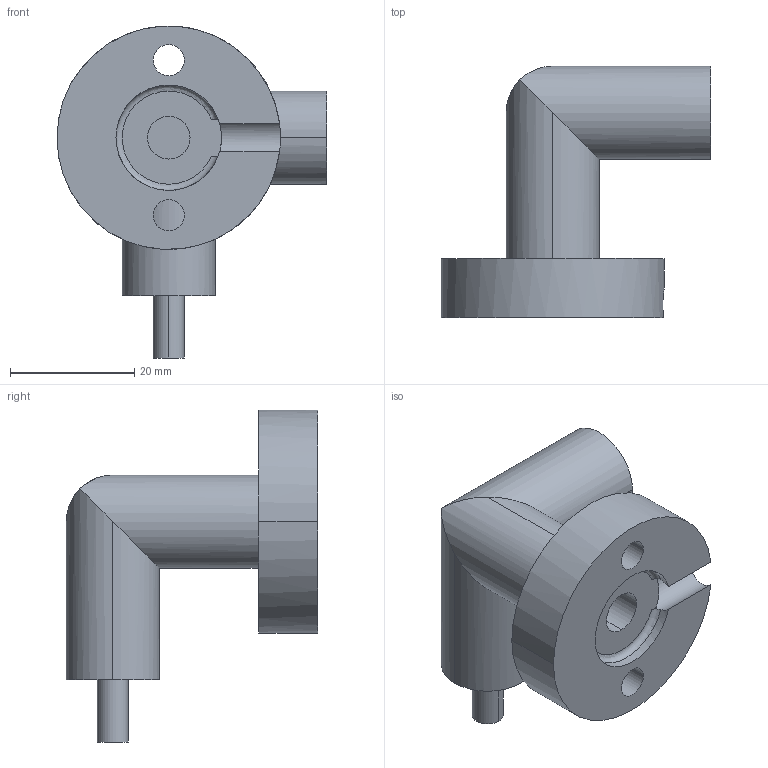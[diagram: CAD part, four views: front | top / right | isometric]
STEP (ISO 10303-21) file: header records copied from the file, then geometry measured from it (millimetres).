
FILE_DESCRIPTION((''),'2;1');
FILE_NAME('ASM0001_ASM','2022-11-09T21:31:43',('Administrator'),(''),'CREO PARAMETRIC BY PTC INC, 2020053','CREO PARAMETRIC BY PTC INC, 2020053','');
FILE_SCHEMA(('CONFIG_CONTROL_DESIGN','SHAPE_APPEARANCE_LAYERS_GROUPS'));
Length unit declared in the file: millimetre
Products named in the file (3): BASE; CLMC-I_-F; ASM0001_ASM
Assembly tree (2 placements, depth 2):
  ASM0001_ASM
    BASE
    CLMC-I_-F
Bounding box: 43.5 x 40.5 x 53.5 mm (x, y, z)
Volume: 18053 mm3; surface area: 8509.1 mm2
Topology: 2 solids, 2 shells, 48 faces, 117 edges, 81 vertices
Faces by surface type: cylinder 33, plane 14, torus 1
Entity records: 2041 total; most frequent: CARTESIAN_POINT 423, DIRECTION 266, ORIENTED_EDGE 234, EDGE_CURVE 117, AXIS2_PLACEMENT_3D 116, VERTEX_POINT 81, CIRCLE 63, EDGE_LOOP 62
